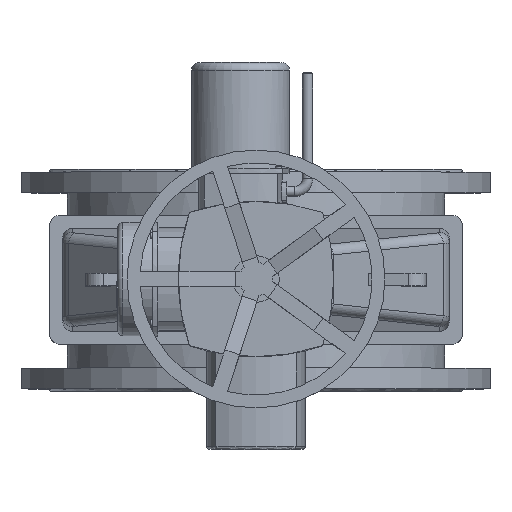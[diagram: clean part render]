
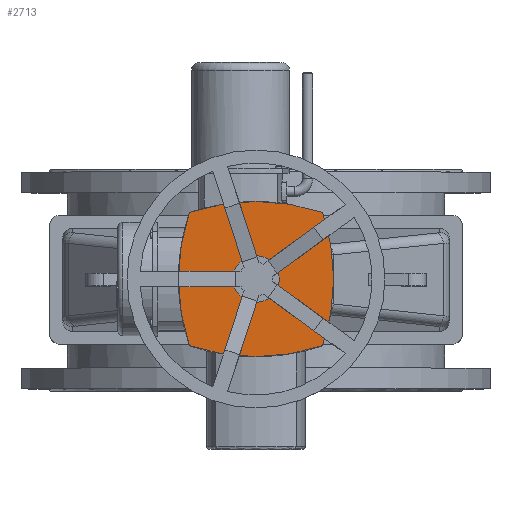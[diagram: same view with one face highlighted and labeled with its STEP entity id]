
A CAD part, top view. The second image highlights one B-rep face of the part: STEP entity #2713.
In plain terms, the highlighted planar face has unit normal (0, 0, 1).
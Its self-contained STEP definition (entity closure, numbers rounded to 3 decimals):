
#2713=ADVANCED_FACE('',(#8407,#8409),#8411,.T.);
#8407=FACE_BOUND('',#8408,.T.);
#8408=EDGE_LOOP('',(#11613,#11614,#11615,#11616));
#8409=FACE_BOUND('',#8410,.T.);
#8410=EDGE_LOOP('',(#11617));
#8411=PLANE('',#8412);
#8412=AXIS2_PLACEMENT_3D('',#8413,#8414,#8415);
#8413=CARTESIAN_POINT('',(0.,0.,1719.));
#8414=DIRECTION('',(0.,0.,1.));
#8415=DIRECTION('',(0.,1.,0.));
#11613=ORIENTED_EDGE('',*,*,#12901,.T.);
#11614=ORIENTED_EDGE('',*,*,#12906,.T.);
#11615=ORIENTED_EDGE('',*,*,#12907,.T.);
#11616=ORIENTED_EDGE('',*,*,#12894,.T.);
#11617=ORIENTED_EDGE('',*,*,#12908,.F.);
#12894=EDGE_CURVE('',#14472,#14470,#14473,.T.);
#12901=EDGE_CURVE('',#14470,#14482,#14484,.T.);
#12906=EDGE_CURVE('',#14482,#14493,#14494,.T.);
#12907=EDGE_CURVE('',#14493,#14472,#14495,.T.);
#12908=EDGE_CURVE('',#14496,#14496,#14497,.T.);
#14470=VERTEX_POINT('',#21885);
#14472=VERTEX_POINT('',#21889);
#14473=CIRCLE('',#21890,400.);
#14482=VERTEX_POINT('',#21916);
#14484=CIRCLE('',#21920,400.);
#14493=VERTEX_POINT('',#22107);
#14494=CIRCLE('',#22108,400.);
#14495=CIRCLE('',#22112,400.);
#14496=VERTEX_POINT('',#22116);
#14497=CIRCLE('',#22117,45.);
#21885=CARTESIAN_POINT('',(-129.047,-129.047,1719.));
#21889=CARTESIAN_POINT('',(-129.047,129.047,1719.));
#21890=AXIS2_PLACEMENT_3D('',#21891,#21892,#21893);
#21891=CARTESIAN_POINT('',(249.565,0.,1719.));
#21892=DIRECTION('',(0.,0.,1.));
#21893=DIRECTION('',(-0.947,0.323,0.));
#21916=CARTESIAN_POINT('',(129.047,-129.047,1719.));
#21920=AXIS2_PLACEMENT_3D('',#21921,#21922,#21923);
#21921=CARTESIAN_POINT('',(0.,249.565,1719.));
#21922=DIRECTION('',(0.,0.,1.));
#21923=DIRECTION('',(-0.323,-0.947,0.));
#22107=CARTESIAN_POINT('',(129.047,129.047,1719.));
#22108=AXIS2_PLACEMENT_3D('',#22109,#22110,#22111);
#22109=CARTESIAN_POINT('',(-249.565,0.,1719.));
#22110=DIRECTION('',(0.,0.,1.));
#22111=DIRECTION('',(0.947,-0.323,0.));
#22112=AXIS2_PLACEMENT_3D('',#22113,#22114,#22115);
#22113=CARTESIAN_POINT('',(0.,-249.565,1719.));
#22114=DIRECTION('',(0.,0.,1.));
#22115=DIRECTION('',(0.323,0.947,0.));
#22116=CARTESIAN_POINT('',(0.,45.,1719.));
#22117=AXIS2_PLACEMENT_3D('',#22118,#22119,#22120);
#22118=CARTESIAN_POINT('',(0.,0.,1719.));
#22119=DIRECTION('',(0.,0.,1.));
#22120=DIRECTION('',(0.,1.,0.));
